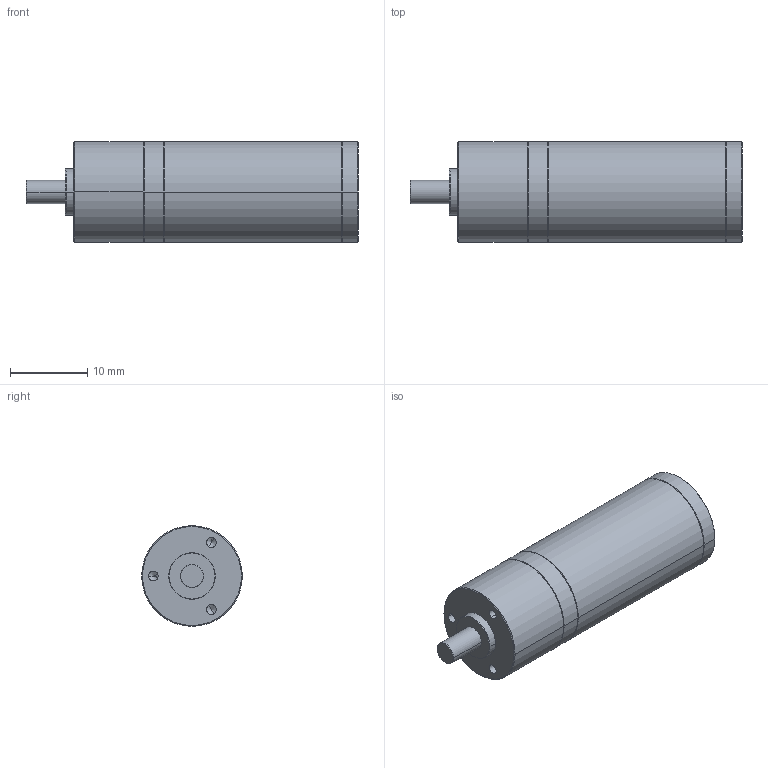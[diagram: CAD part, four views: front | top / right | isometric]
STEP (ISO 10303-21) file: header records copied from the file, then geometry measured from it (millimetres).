
FILE_DESCRIPTION((''),'2;1');
FILE_NAME('1201825','2016-10-04T',('mmagvisi'),(''),'CREO PARAMETRIC BY PTC INC, 2016050','CREO PARAMETRIC BY PTC INC, 2016050','');
FILE_SCHEMA(('CONFIG_CONTROL_DESIGN'));
Length unit declared in the file: millimetre
Products named in the file (1): 1201825
Bounding box: 42.9 x 13 x 13 mm (x, y, z)
Volume: 4731.7 mm3; surface area: 1961.2 mm2
Topology: 1 solids, 1 shells, 57 faces, 118 edges, 63 vertices
Faces by surface type: cone 30, cylinder 22, plane 5
Entity records: 1550 total; most frequent: DIRECTION 286, CARTESIAN_POINT 232, ORIENTED_EDGE 224, AXIS2_PLACEMENT_3D 117, EDGE_CURVE 112, VERTEX_POINT 63, EDGE_LOOP 63, CIRCLE 60
